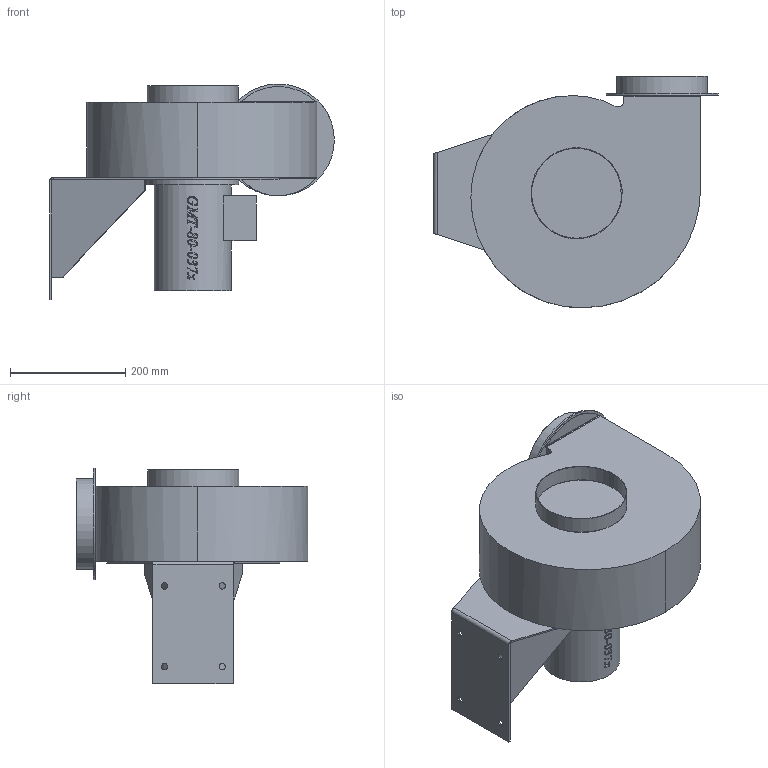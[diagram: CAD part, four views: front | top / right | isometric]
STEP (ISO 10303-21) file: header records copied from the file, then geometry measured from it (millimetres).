
FILE_DESCRIPTION(/* description */ (''),/* implementation_level */ '2;1');
FILE_NAME(/* name */ 'E:\Mariusz\Modele uproszczone\GMT\GMT_80_037T RD90 42551530\GMT_80_037x RD90 42551520.stp',/* time_stamp */ '2018-05-29T14:14:00+02:00',/* author */ ('M.Janczarek'),/* organization */ (''),/* preprocessor_version */ 'ST-DEVELOPER v16.5',/* originating_system */ 'Autodesk Inventor 2017',/* authorisation */ '');
FILE_SCHEMA (('AUTOMOTIVE_DESIGN { 1 0 10303 214 3 1 1 }'));
Length unit declared in the file: millimetre
Products named in the file (1): 2 2720 15X 523
Bounding box: 493.09 x 401.84 x 374.52 mm (x, y, z)
Volume: 19520590.7 mm3; surface area: 792310.5 mm2
Topology: 1 solids, 1 shells, 618 faces, 1760 edges, 1167 vertices
Faces by surface type: bspline 403, plane 119, cylinder 96
Full cylindrical faces by diameter (mm): 11 x4, 133.6 x1, 160 x1, 194 x1
Entity records: 28017 total; most frequent: CARTESIAN_POINT 14525, ORIENTED_EDGE 3392, EDGE_CURVE 1696, DIRECTION 1635, VERTEX_POINT 1129, LINE 753, VECTOR 753, B_SPLINE_CURVE_WITH_KNOTS 710
